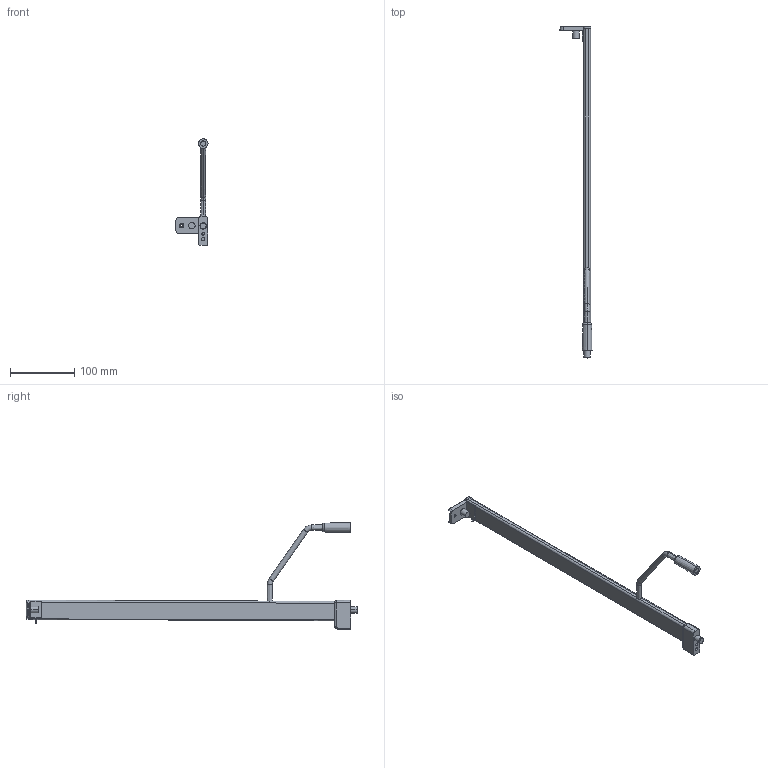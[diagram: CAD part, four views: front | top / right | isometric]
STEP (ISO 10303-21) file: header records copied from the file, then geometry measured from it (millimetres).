
FILE_DESCRIPTION (( 'STEP AP214' ), '1' );
FILE_NAME ('_2S_REL_7606_NL500_RE_Frontstütze.step', '2010-07-01T14:41:56', ( 'grass' ), ( '' ), 'SwSTEP 2.0', 'SolidWorks 2009', '' );
FILE_SCHEMA (( 'AUTOMOTIVE_DESIGN' ));
Length unit declared in the file: millimetre
Products named in the file (1): _2S_REL_7606_NL500_RE_Frontstütze
Bounding box: 49.75 x 515.5 x 165.5 mm (x, y, z)
Volume: 184452.2 mm3; surface area: 51400.4 mm2
Topology: 2 solids, 2 shells, 142 faces, 341 edges, 207 vertices
Faces by surface type: cylinder 60, plane 46, bspline 16, torus 12, cone 6, sphere 2
Entity records: 5378 total; most frequent: CARTESIAN_POINT 2174, ORIENTED_EDGE 678, DIRECTION 655, EDGE_CURVE 339, AXIS2_PLACEMENT_3D 251, VERTEX_POINT 207, LINE 153, VECTOR 153
